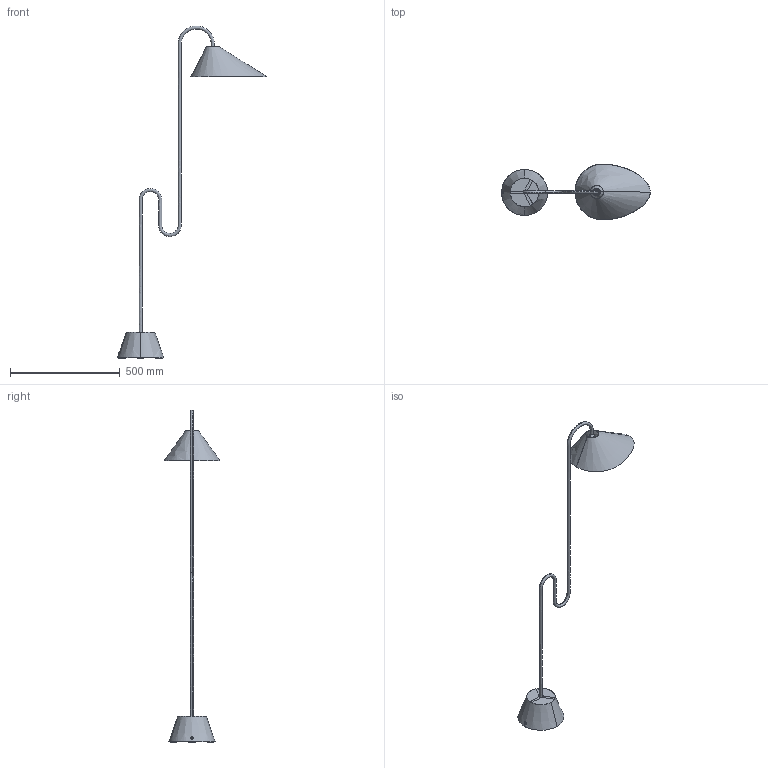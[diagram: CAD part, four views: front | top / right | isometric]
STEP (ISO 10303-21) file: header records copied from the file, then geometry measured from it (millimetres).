
FILE_DESCRIPTION(/* description */ (''),/* implementation_level */ '2;1');
FILE_NAME(/* name */ 'EG_ROATTINO_3D_JS_20230719',/* time_stamp */ '2023-07-19T11:34:20+02:00',/* author */ (''),/* organization */ (''),/* preprocessor_version */ 'ST-DEVELOPER v16.5',/* originating_system */ 'Rhino 7.31',/* authorisation */ '');
FILE_SCHEMA (('CONFIG_CONTROL_DESIGN'));
Length unit declared in the file: millimetre
Products named in the file (1): Document
Bounding box: 677.88 x 254.47 x 1512 mm (x, y, z)
Volume: 562691.4 mm3; surface area: 433602 mm2
Topology: 9 solids, 11 shells, 73 faces, 154 edges, 96 vertices
Faces by surface type: bspline 33, plane 30, cylinder 10
Entity records: 7034 total; most frequent: CARTESIAN_POINT 5962, ORIENTED_EDGE 302, EDGE_CURVE 152, VERTEX_POINT 96, EDGE_LOOP 74, ADVANCED_FACE 73, FACE_OUTER_BOUND 73, B_SPLINE_CURVE_WITH_KNOTS 51
